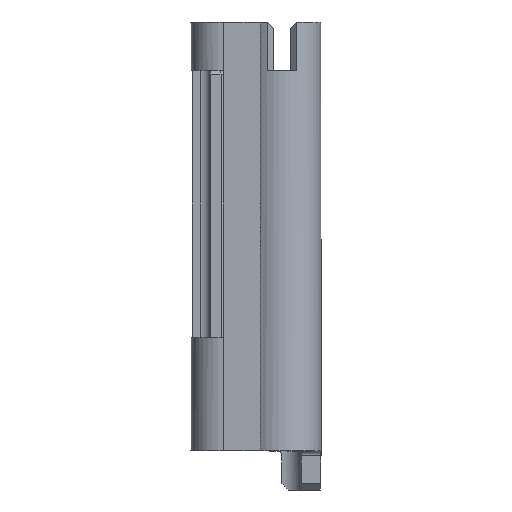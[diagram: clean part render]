
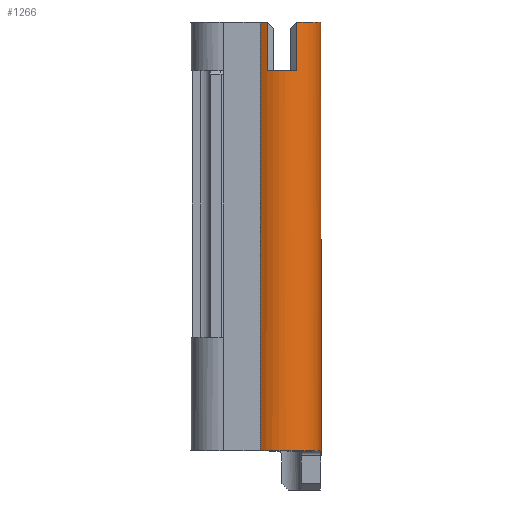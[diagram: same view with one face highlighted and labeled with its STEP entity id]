
A CAD part, front view. The second image highlights one B-rep face of the part: STEP entity #1266.
In plain terms, the highlighted cylindrical face has radius 1.2 mm (diameter 2.4 mm), a partial arc.
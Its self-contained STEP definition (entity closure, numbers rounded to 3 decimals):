
#44 = CARTESIAN_POINT ( 'NONE',  ( -0.463, -1.107, 1.493 ) ) ;
#64 = ORIENTED_EDGE ( 'NONE', *, *, #549, .F. ) ;
#71 = CARTESIAN_POINT ( 'NONE',  ( 1.2, -0.001, -11.827 ) ) ;
#79 = CARTESIAN_POINT ( 'NONE',  ( 0.459, -1.109, 1.489 ) ) ;
#96 = CARTESIAN_POINT ( 'NONE',  ( 1.2, -0.004, -11.816 ) ) ;
#119 = DIRECTION ( 'NONE',  ( 0., 0., 1. ) ) ;
#158 = VERTEX_POINT ( 'NONE', #1979 ) ;
#167 = EDGE_CURVE ( 'NONE', #750, #3470, #1796, .T. ) ;
#186 = AXIS2_PLACEMENT_3D ( 'NONE', #2186, #3330, #1113 ) ;
#243 = VERTEX_POINT ( 'NONE', #678 ) ;
#250 = ORIENTED_EDGE ( 'NONE', *, *, #2282, .T. ) ;
#271 = LINE ( 'NONE', #2918, #2387 ) ;
#337 = CARTESIAN_POINT ( 'NONE',  ( 1.2, 0., 1.5 ) ) ;
#361 = CARTESIAN_POINT ( 'NONE',  ( 1.193, -0.133, -11.7 ) ) ;
#390 = LINE ( 'NONE', #3331, #3333 ) ;
#437 = DIRECTION ( 'NONE',  ( 0., 0., 1. ) ) ;
#549 = EDGE_CURVE ( 'NONE', #750, #605, #2996, .T. ) ;
#602 = CARTESIAN_POINT ( 'NONE',  ( 1.2, 0., -11.839 ) ) ;
#605 = VERTEX_POINT ( 'NONE', #337 ) ;
#616 = CARTESIAN_POINT ( 'NONE',  ( 1.196, -0.101, -11.708 ) ) ;
#665 = DIRECTION ( 'NONE',  ( 0., 0., 1. ) ) ;
#678 = CARTESIAN_POINT ( 'NONE',  ( 0.459, -1.109, 0. ) ) ;
#714 = CIRCLE ( 'NONE', #1685, 1.2 ) ;
#747 = ORIENTED_EDGE ( 'NONE', *, *, #2133, .T. ) ;
#750 = VERTEX_POINT ( 'NONE', #3355 ) ;
#812 = CARTESIAN_POINT ( 'NONE',  ( -0.466, -1.106, 1.496 ) ) ;
#828 = VERTEX_POINT ( 'NONE', #2326 ) ;
#832 = AXIS2_PLACEMENT_3D ( 'NONE', #2223, #876, #2526 ) ;
#873 =( BOUNDED_CURVE ( )  B_SPLINE_CURVE ( 3, ( #2744, #44, #812, #3532 ),
 .UNSPECIFIED., .F., .F. ) 
 B_SPLINE_CURVE_WITH_KNOTS ( ( 4, 4 ),
 ( 5.105, 5.115 ),
 .UNSPECIFIED. ) 
 CURVE ( )  GEOMETRIC_REPRESENTATION_ITEM ( )  RATIONAL_B_SPLINE_CURVE ( ( 1., 1., 1., 1. ) ) 
 REPRESENTATION_ITEM ( '' )  );
#875 = CARTESIAN_POINT ( 'NONE',  ( 1.199, -0.044, -11.743 ) ) ;
#876 = DIRECTION ( 'NONE',  ( 0., 0., -1. ) ) ;
#918 = EDGE_CURVE ( 'NONE', #243, #3470, #271, .T. ) ;
#1049 = CARTESIAN_POINT ( 'NONE',  ( -0.663, -1., -11.7 ) ) ;
#1113 = DIRECTION ( 'NONE',  ( 1., 0., 0. ) ) ;
#1157 = CARTESIAN_POINT ( 'NONE',  ( 1.197, -0.085, -11.714 ) ) ;
#1162 = AXIS2_PLACEMENT_3D ( 'NONE', #2362, #437, #2646 ) ;
#1185 = VECTOR ( 'NONE', #119, 1000. ) ;
#1187 = CARTESIAN_POINT ( 'NONE',  ( 0.459, -1.109, 1.489 ) ) ;
#1213 = CARTESIAN_POINT ( 'NONE',  ( -0.459, -1.109, 0. ) ) ;
#1266 = ADVANCED_FACE ( 'NONE', ( #3379 ), #1649, .T. ) ;
#1329 = ORIENTED_EDGE ( 'NONE', *, *, #3417, .T. ) ;
#1376 = VERTEX_POINT ( 'NONE', #2131 ) ;
#1389 = CIRCLE ( 'NONE', #832, 1.2 ) ;
#1393 = CARTESIAN_POINT ( 'NONE',  ( 1.2, 0., -11.85 ) ) ;
#1414 = CARTESIAN_POINT ( 'NONE',  ( 1.198, -0.07, -11.722 ) ) ;
#1560 = VECTOR ( 'NONE', #2327, 1000. ) ;
#1591 = EDGE_CURVE ( 'NONE', #158, #828, #3511, .T. ) ;
#1620 = DIRECTION ( 'NONE',  ( 0., 0., 1. ) ) ;
#1636 = EDGE_CURVE ( 'NONE', #3225, #2140, #2127, .T. ) ;
#1649 = CYLINDRICAL_SURFACE ( 'NONE', #1162, 1.2 ) ;
#1682 = CARTESIAN_POINT ( 'NONE',  ( 0.466, -1.106, 1.496 ) ) ;
#1685 = AXIS2_PLACEMENT_3D ( 'NONE', #1714, #665, #2304 ) ;
#1711 = DIRECTION ( 'NONE',  ( 0., 0., 1. ) ) ;
#1714 = CARTESIAN_POINT ( 'NONE',  ( 0., 0., -11.7 ) ) ;
#1796 =( BOUNDED_CURVE ( )  B_SPLINE_CURVE ( 3, ( #2231, #1682, #2819, #79 ),
 .UNSPECIFIED., .F., .F. ) 
 B_SPLINE_CURVE_WITH_KNOTS ( ( 4, 4 ),
 ( 1.168, 1.178 ),
 .UNSPECIFIED. ) 
 CURVE ( )  GEOMETRIC_REPRESENTATION_ITEM ( )  RATIONAL_B_SPLINE_CURVE ( ( 1., 1., 1., 1. ) ) 
 REPRESENTATION_ITEM ( '' )  );
#1963 = CARTESIAN_POINT ( 'NONE',  ( 1.191, -0.15, -11.7 ) ) ;
#1974 = ORIENTED_EDGE ( 'NONE', *, *, #2028, .T. ) ;
#1979 = CARTESIAN_POINT ( 'NONE',  ( 1.191, -0.15, -11.7 ) ) ;
#2028 = EDGE_CURVE ( 'NONE', #2140, #1376, #873, .T. ) ;
#2083 = EDGE_CURVE ( 'NONE', #3005, #2414, #390, .T. ) ;
#2127 = LINE ( 'NONE', #1213, #1185 ) ;
#2131 = CARTESIAN_POINT ( 'NONE',  ( -0.47, -1.104, 1.5 ) ) ;
#2133 = EDGE_CURVE ( 'NONE', #243, #3225, #1389, .T. ) ;
#2140 = VERTEX_POINT ( 'NONE', #2803 ) ;
#2144 = CARTESIAN_POINT ( 'NONE',  ( -0.459, -1.109, 0. ) ) ;
#2186 = CARTESIAN_POINT ( 'NONE',  ( 0., 0., 1.5 ) ) ;
#2212 = CARTESIAN_POINT ( 'NONE',  ( 1.2, -0.032, -11.756 ) ) ;
#2223 = CARTESIAN_POINT ( 'NONE',  ( 0., 0., 0. ) ) ;
#2231 = CARTESIAN_POINT ( 'NONE',  ( 0.47, -1.104, 1.5 ) ) ;
#2237 = CARTESIAN_POINT ( 'NONE',  ( 1.2, -0.008, -11.8 ) ) ;
#2262 = CARTESIAN_POINT ( 'NONE',  ( 1.2, -0.014, -11.784 ) ) ;
#2282 = EDGE_CURVE ( 'NONE', #828, #605, #2746, .T. ) ;
#2304 = DIRECTION ( 'NONE',  ( 1., 0., 0. ) ) ;
#2326 = CARTESIAN_POINT ( 'NONE',  ( 1.2, 0., -11.85 ) ) ;
#2327 = DIRECTION ( 'NONE',  ( 0., 0., 1. ) ) ;
#2362 = CARTESIAN_POINT ( 'NONE',  ( 0., 0., -11.7 ) ) ;
#2387 = VECTOR ( 'NONE', #3183, 1000. ) ;
#2414 = VERTEX_POINT ( 'NONE', #3447 ) ;
#2462 = ORIENTED_EDGE ( 'NONE', *, *, #2662, .F. ) ;
#2526 = DIRECTION ( 'NONE',  ( 1., 0., 0. ) ) ;
#2583 = CARTESIAN_POINT ( 'NONE',  ( 1.2, 0., -11.7 ) ) ;
#2584 = ORIENTED_EDGE ( 'NONE', *, *, #1591, .T. ) ;
#2646 = DIRECTION ( 'NONE',  ( 1., 0., 0. ) ) ;
#2662 = EDGE_CURVE ( 'NONE', #2414, #1376, #3405, .T. ) ;
#2681 = ORIENTED_EDGE ( 'NONE', *, *, #1636, .T. ) ;
#2744 = CARTESIAN_POINT ( 'NONE',  ( -0.459, -1.109, 1.489 ) ) ;
#2746 = LINE ( 'NONE', #2583, #1560 ) ;
#2785 = CARTESIAN_POINT ( 'NONE',  ( 0., 0., 1.5 ) ) ;
#2790 = CARTESIAN_POINT ( 'NONE',  ( 1.2, -0.023, -11.77 ) ) ;
#2803 = CARTESIAN_POINT ( 'NONE',  ( -0.459, -1.109, 1.489 ) ) ;
#2813 = CARTESIAN_POINT ( 'NONE',  ( 1.194, -0.116, -11.703 ) ) ;
#2819 = CARTESIAN_POINT ( 'NONE',  ( 0.463, -1.107, 1.493 ) ) ;
#2916 = EDGE_LOOP ( 'NONE', ( #2584, #250, #64, #3178, #3057, #747, #2681, #1974, #2462, #3473, #1329 ) ) ;
#2918 = CARTESIAN_POINT ( 'NONE',  ( 0.459, -1.109, 0. ) ) ;
#2996 = CIRCLE ( 'NONE', #186, 1.2 ) ;
#3005 = VERTEX_POINT ( 'NONE', #1049 ) ;
#3020 = DIRECTION ( 'NONE',  ( 1., 0., 0. ) ) ;
#3057 = ORIENTED_EDGE ( 'NONE', *, *, #918, .F. ) ;
#3178 = ORIENTED_EDGE ( 'NONE', *, *, #167, .T. ) ;
#3183 = DIRECTION ( 'NONE',  ( 0., 0., 1. ) ) ;
#3225 = VERTEX_POINT ( 'NONE', #2144 ) ;
#3330 = DIRECTION ( 'NONE',  ( 0., 0., 1. ) ) ;
#3331 = CARTESIAN_POINT ( 'NONE',  ( -0.663, -1., -11.7 ) ) ;
#3332 = AXIS2_PLACEMENT_3D ( 'NONE', #2785, #1620, #3020 ) ;
#3333 = VECTOR ( 'NONE', #1711, 1000. ) ;
#3353 = CARTESIAN_POINT ( 'NONE',  ( 1.199, -0.057, -11.733 ) ) ;
#3355 = CARTESIAN_POINT ( 'NONE',  ( 0.47, -1.104, 1.5 ) ) ;
#3379 = FACE_OUTER_BOUND ( 'NONE', #2916, .T. ) ;
#3405 = CIRCLE ( 'NONE', #3332, 1.2 ) ;
#3417 = EDGE_CURVE ( 'NONE', #3005, #158, #714, .T. ) ;
#3447 = CARTESIAN_POINT ( 'NONE',  ( -0.663, -1., 1.5 ) ) ;
#3470 = VERTEX_POINT ( 'NONE', #1187 ) ;
#3473 = ORIENTED_EDGE ( 'NONE', *, *, #2083, .F. ) ;
#3511 = B_SPLINE_CURVE_WITH_KNOTS ( 'NONE', 3,
 ( #1963, #361, #2813, #616, #1157, #1414, #3353, #875, #2212, #2790, #2262, #2237, #96, #71, #602, #1393 ),
 .UNSPECIFIED., .F., .F.,
 ( 4, 3, 3, 3, 3, 4 ),
 ( 0., 0., 0., 0., 0., 0. ),
 .UNSPECIFIED. ) ;
#3532 = CARTESIAN_POINT ( 'NONE',  ( -0.47, -1.104, 1.5 ) ) ;
